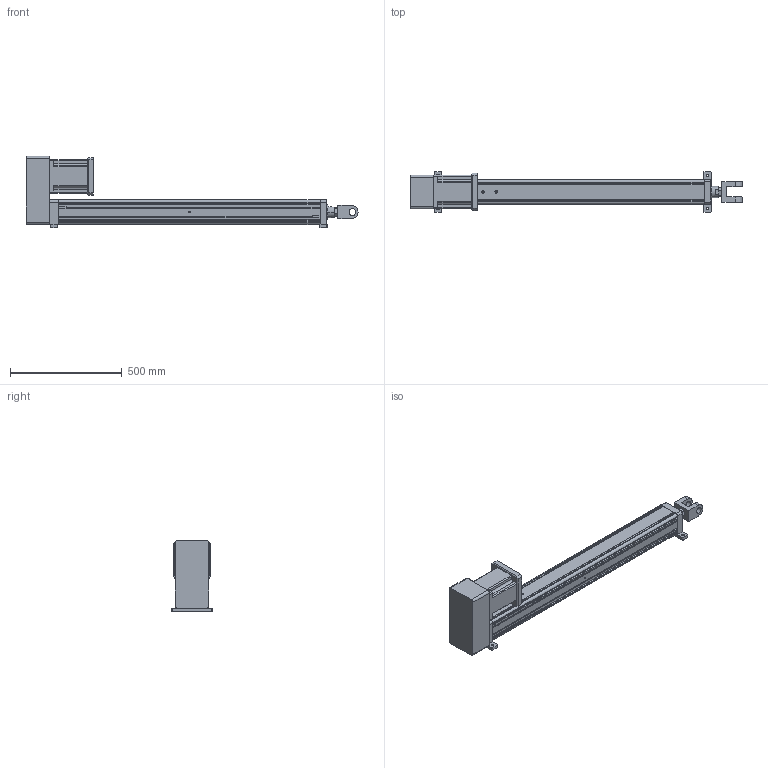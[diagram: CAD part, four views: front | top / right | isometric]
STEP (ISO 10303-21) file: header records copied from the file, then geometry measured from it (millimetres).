
FILE_DESCRIPTION (( 'STEP AP203' ), '1' );
FILE_NAME ('YRJ110-L1000-H2K4.STEP', '2020-01-04T06:06:01', ( 'User' ), ( 'China' ), 'SwSTEP 2.0', 'SolidWorks 2016', '' );
FILE_SCHEMA (( 'CONFIG_CONTROL_DESIGN' ));
Length unit declared in the file: millimetre
Products named in the file (7): H2-110-1; 095-100俴最倰第; 142熬厒儂; 萇儂碟-110; H2-110-2; YRJ110-L1000-H2K4; K4-110
Assembly tree (6 placements, depth 2):
  YRJ110-L1000-H2K4
    095-100俴最倰第
    萇儂碟-110
    142熬厒儂
    K4-110
    H2-110-1
    H2-110-2
Bounding box: 1486 x 180 x 320 mm (x, y, z)
Volume: 14997081.1 mm3; surface area: 1547613.7 mm2
Topology: 6 solids, 6 shells, 340 faces, 936 edges, 605 vertices
Faces by surface type: plane 197, cylinder 116, cone 27
Entity records: 11776 total; most frequent: CARTESIAN_POINT 2214, DIRECTION 1843, ORIENTED_EDGE 1840, EDGE_CURVE 920, VECTOR 651, LINE 651, VERTEX_POINT 605, AXIS2_PLACEMENT_3D 596
